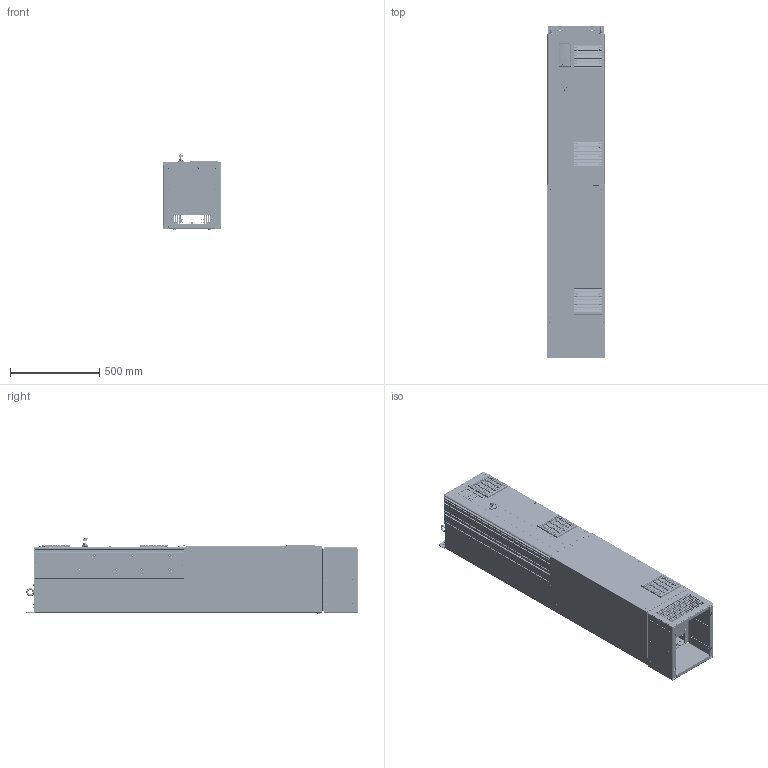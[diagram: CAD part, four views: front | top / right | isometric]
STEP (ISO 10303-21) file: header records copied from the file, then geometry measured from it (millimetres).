
FILE_DESCRIPTION((''),'2;1');
FILE_NAME('P454-1018_ASM','2014-08-05T',('U251643'),('Danfoss Power Electronics'),'PRO/ENGINEER BY PARAMETRIC TECHNOLOGY CORPORATION, 2013050','PRO/ENGINEER BY PARAMETRIC TECHNOLOGY CORPORATION, 2013050','');
FILE_SCHEMA(('CONFIG_CONTROL_DESIGN','GEOMETRIC_VALIDATION_PROPERTIES_MIM'));
Products named in the file (199): 177G6027; FH-M5-12-ZI; FH-M8-20-ZI; SS-M5-2-ZI; S-M10-1-ZI; 177G6027_ASM; 177G6087; FH-M5-10-ZI; TPS-5MM-10; 177G6087_ASM; 177G5921; 177G5938; 177G6051; PEM_N10-M5-1-ZI; 177G6051_ASM; 26513; P454-1189_ASM; 177G6025; FH-M5-8-ZI; HFH-M10-20-ZI; 177G6025_ASM; 177G6030; 177G6030_ASM; 177G6028; SS-M5-1-ZI; 177G6028_ASM; 177G6029; 177G6029_ASM; SF-5-16-ZI; 177G6026_ASM; 177G5922; 681X9143; 26516; 177G6007; 177G6007_ASM; 177G5923; 177G4180; 177G4180_ASM; 177G6004; FH-M8-25-ZI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
Assembly tree (715 placements, depth 6):
  P454-1018_ASM
    177G6027_ASM
      177G6027
      FH-M5-12-ZI  x25
      FH-M8-20-ZI  x2
      SS-M5-2-ZI  x26
      S-M10-1-ZI  x2
    P454-1189_ASM
      177G6087_ASM
        177G6087
        FH-M5-10-ZI  x2
        SS-M5-2-ZI  x2
        TPS-5MM-10  x2
      177G5921
      177G5938
      177G6051_ASM
        177G6051
        PEM_N10-M5-1-ZI
      26513  x2
    26513  x34
    177G6026_ASM
      177G6025_ASM
        177G6025
        FH-M5-10-ZI  x14
        SS-M5-2-ZI  x6
        FH-M5-8-ZI  x2
        HFH-M10-20-ZI  x3
      177G6030_ASM
        177G6030
        FH-M5-8-ZI
      177G6028_ASM
        177G6028
        SS-M5-1-ZI
      177G6029_ASM
        177G6029
        SS-M5-1-ZI
      SF-5-16-ZI  x6
    177G5922  x2
    681X9143  x40
    26516  x5
    177G6007_ASM
      177G6007
    177G5923
    177G4180_ASM
      177G4180
    177G6004_ASM  x2
      177G6004
      FH-M8-25-ZI
    177G6005_ASM
      177G6005
      FH-M8-25-ZI
    177A0061
    177G6009_ASM
      177G6009
      FH-M5-8-ZI  x2
      SS-M5-2-ZI  x4
      S-M8-1-ZI  x4
      FH-M5-10-ZI  x4
    177G6003_ASM
      177G6003
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Bounding box: 329.6 x 1864.25 x 421.29 mm (x, y, z)
Volume: 18392504.7 mm3; surface area: 12108895.1 mm2
Topology: 680 solids, 734 shells, 34309 faces, 89571 edges, 57425 vertices
Faces by surface type: plane 20744, cylinder 7960, bspline 2163, cone 1708, torus 1380, sphere 184, revolution 144, extrusion 26
Entity records: 768195 total; most frequent: CARTESIAN_POINT 171978, ORIENTED_EDGE 100288, DIRECTION 94873, EDGE_CURVE 50631, VECTOR 35783, LINE 35757, PRESENTATION_STYLE_ASSIGNMENT 34464, STYLED_ITEM 34361
